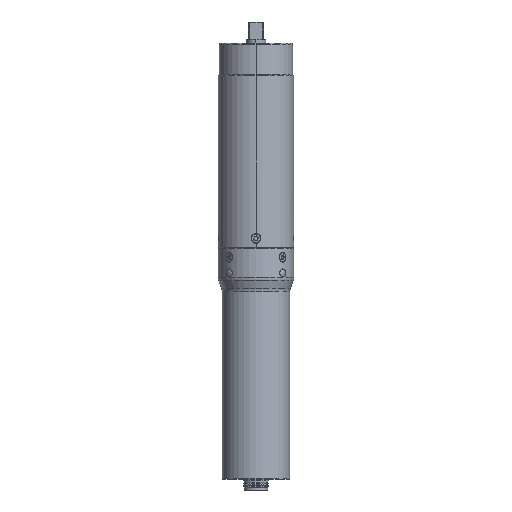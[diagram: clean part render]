
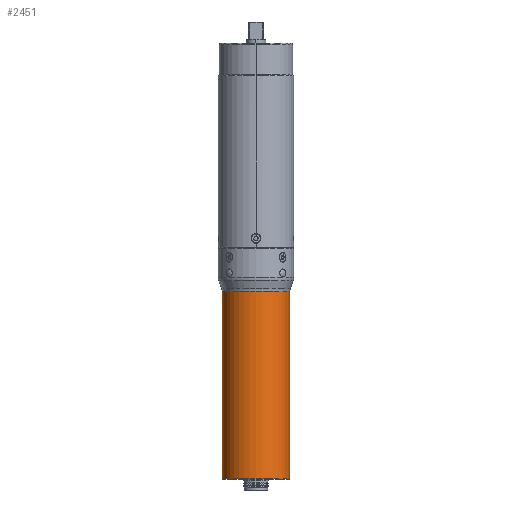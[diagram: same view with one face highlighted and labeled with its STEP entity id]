
A CAD part, front view. The second image highlights one B-rep face of the part: STEP entity #2451.
In plain terms, the highlighted cylindrical face has radius 21.5 mm (diameter 43 mm), a partial arc.
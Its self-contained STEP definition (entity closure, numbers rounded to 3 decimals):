
#72 = ORIENTED_EDGE ( 'NONE', *, *, #1236, .F. ) ;
#171 = EDGE_CURVE ( 'NONE', #3115, #13505, #7817, .T. ) ;
#1236 = EDGE_CURVE ( 'NONE', #17303, #12041, #4676, .T. ) ;
#1674 = ORIENTED_EDGE ( 'NONE', *, *, #14840, .T. ) ;
#1731 = DIRECTION ( 'NONE',  ( 0., 0., 1. ) ) ;
#1802 = CARTESIAN_POINT ( 'NONE',  ( 0., 54.414, -176.887 ) ) ;
#2221 = EDGE_CURVE ( 'NONE', #13505, #12041, #10777, .T. ) ;
#2451 = ADVANCED_FACE ( 'NONE', ( #3254 ), #4271, .T. ) ;
#3115 = VERTEX_POINT ( 'NONE', #8135 ) ;
#3254 = FACE_OUTER_BOUND ( 'NONE', #7937, .T. ) ;
#3790 = CARTESIAN_POINT ( 'NONE',  ( 0., 54.414, -49.408 ) ) ;
#4257 = CARTESIAN_POINT ( 'NONE',  ( -21.5, 54.414, -168.358 ) ) ;
#4271 = CYLINDRICAL_SURFACE ( 'NONE', #5478, 21.5 ) ;
#4676 = LINE ( 'NONE', #10290, #14613 ) ;
#5478 = AXIS2_PLACEMENT_3D ( 'NONE', #1802, #12830, #13015 ) ;
#6779 = ORIENTED_EDGE ( 'NONE', *, *, #2221, .T. ) ;
#7817 = LINE ( 'NONE', #8924, #16646 ) ;
#7899 = DIRECTION ( 'NONE',  ( 1., 0., 0. ) ) ;
#7937 = EDGE_LOOP ( 'NONE', ( #1674, #13188, #6779, #72 ) ) ;
#8135 = CARTESIAN_POINT ( 'NONE',  ( -21.5, 54.414, -49.408 ) ) ;
#8924 = CARTESIAN_POINT ( 'NONE',  ( -21.5, 54.414, -176.887 ) ) ;
#9597 = AXIS2_PLACEMENT_3D ( 'NONE', #14354, #1731, #17220 ) ;
#10290 = CARTESIAN_POINT ( 'NONE',  ( 21.5, 54.414, -176.887 ) ) ;
#10777 = CIRCLE ( 'NONE', #9597, 21.5 ) ;
#11009 = AXIS2_PLACEMENT_3D ( 'NONE', #3790, #13556, #7899 ) ;
#12041 = VERTEX_POINT ( 'NONE', #14800 ) ;
#12083 = DIRECTION ( 'NONE',  ( 0., 0., -1. ) ) ;
#12830 = DIRECTION ( 'NONE',  ( 0., 0., -1. ) ) ;
#13015 = DIRECTION ( 'NONE',  ( 1., 0., 0. ) ) ;
#13163 = DIRECTION ( 'NONE',  ( 0., 0., -1. ) ) ;
#13188 = ORIENTED_EDGE ( 'NONE', *, *, #171, .T. ) ;
#13505 = VERTEX_POINT ( 'NONE', #4257 ) ;
#13556 = DIRECTION ( 'NONE',  ( 0., 0., -1. ) ) ;
#14354 = CARTESIAN_POINT ( 'NONE',  ( 0., 54.414, -168.358 ) ) ;
#14613 = VECTOR ( 'NONE', #13163, 1000. ) ;
#14800 = CARTESIAN_POINT ( 'NONE',  ( 21.5, 54.414, -168.358 ) ) ;
#14840 = EDGE_CURVE ( 'NONE', #17303, #3115, #14879, .T. ) ;
#14879 = CIRCLE ( 'NONE', #11009, 21.5 ) ;
#14953 = CARTESIAN_POINT ( 'NONE',  ( 21.5, 54.414, -49.408 ) ) ;
#16646 = VECTOR ( 'NONE', #12083, 1000. ) ;
#17220 = DIRECTION ( 'NONE',  ( -1., 0., 0. ) ) ;
#17303 = VERTEX_POINT ( 'NONE', #14953 ) ;
